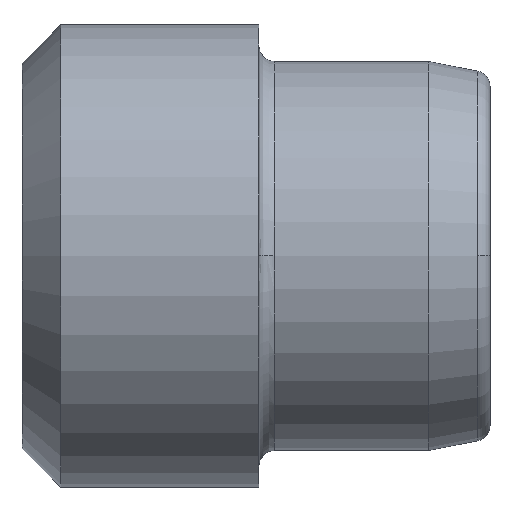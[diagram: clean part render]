
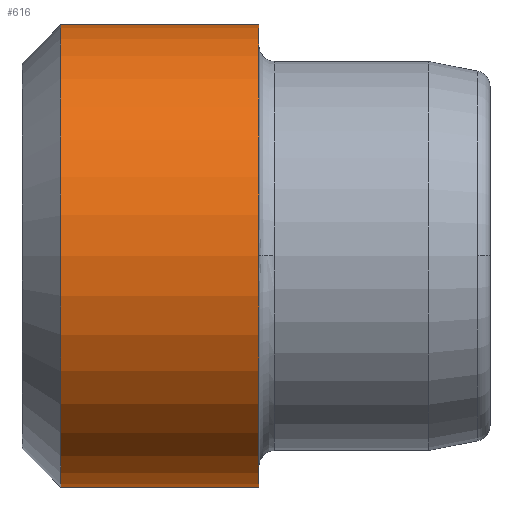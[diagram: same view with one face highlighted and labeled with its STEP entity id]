
A CAD part, top view. The second image highlights one B-rep face of the part: STEP entity #616.
In plain terms, the highlighted cylindrical face has radius 3 mm (diameter 6 mm), a partial arc.
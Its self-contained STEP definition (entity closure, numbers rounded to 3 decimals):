
#575=CARTESIAN_POINT('',(0.212,2.782,0.0));
#576=DIRECTION('',(1.0,0.0,0.0));
#577=DIRECTION('',(0.0,1.0,0.0));
#578=AXIS2_PLACEMENT_3D('',#575,#576,#577);
#579=CYLINDRICAL_SURFACE('',#578,3.0);
#580=CARTESIAN_POINT('',(-0.825,5.782,0.0));
#581=VERTEX_POINT('',#580);
#582=CARTESIAN_POINT('',(1.75,5.782,0.0));
#583=VERTEX_POINT('',#582);
#584=CARTESIAN_POINT('',(-0.825,5.782,0.0));
#585=DIRECTION('',(1.0,0.0,0.0));
#586=VECTOR('',#585,2.575);
#587=LINE('',#584,#586);
#588=EDGE_CURVE('',#581,#583,#587,.T.);
#589=ORIENTED_EDGE('',*,*,#588,.F.);
#590=CARTESIAN_POINT('',(-0.825,-0.218,0.));
#591=VERTEX_POINT('',#590);
#592=CARTESIAN_POINT('',(-0.825,2.782,0.0));
#593=DIRECTION('',(-1.0,0.0,0.0));
#594=DIRECTION('',(0.0,-1.0,0.0));
#595=AXIS2_PLACEMENT_3D('',#592,#593,#594);
#596=CIRCLE('',#595,3.0);
#597=EDGE_CURVE('',#591,#581,#596,.T.);
#598=ORIENTED_EDGE('',*,*,#597,.F.);
#599=CARTESIAN_POINT('',(1.75,-0.218,0.));
#600=VERTEX_POINT('',#599);
#601=CARTESIAN_POINT('',(1.75,-0.218,0.));
#602=DIRECTION('',(-1.0,0.0,0.0));
#603=VECTOR('',#602,2.575);
#604=LINE('',#601,#603);
#605=EDGE_CURVE('',#600,#591,#604,.T.);
#606=ORIENTED_EDGE('',*,*,#605,.F.);
#607=CARTESIAN_POINT('',(1.75,2.782,0.0));
#608=DIRECTION('',(1.0,0.0,0.0));
#609=DIRECTION('',(0.0,1.0,0.0));
#610=AXIS2_PLACEMENT_3D('',#607,#608,#609);
#611=CIRCLE('',#610,3.0);
#612=EDGE_CURVE('',#583,#600,#611,.T.);
#613=ORIENTED_EDGE('',*,*,#612,.F.);
#614=EDGE_LOOP('',(#589,#598,#606,#613));
#615=FACE_OUTER_BOUND('',#614,.T.);
#616=ADVANCED_FACE('',(#615),#579,.T.);
